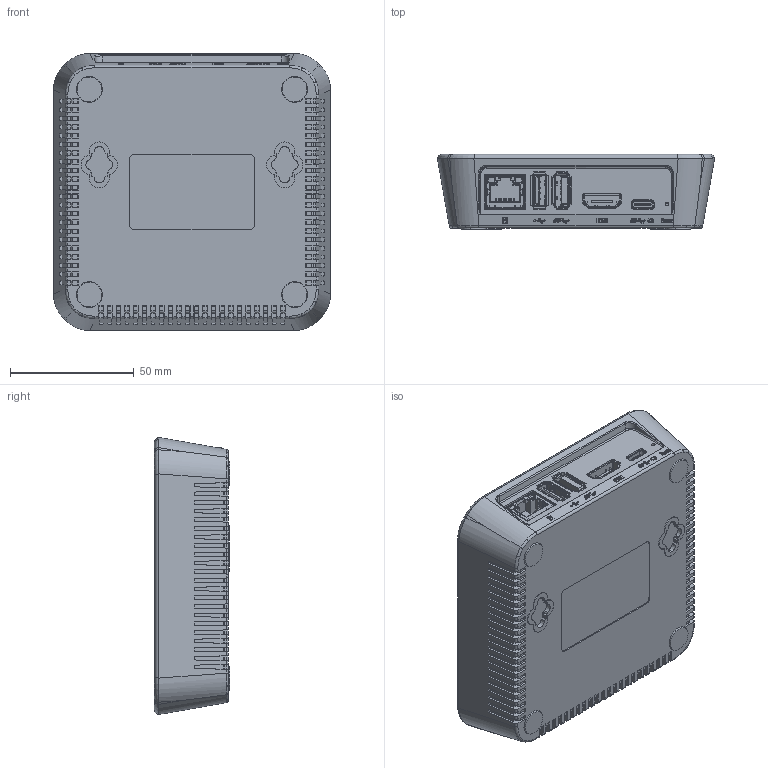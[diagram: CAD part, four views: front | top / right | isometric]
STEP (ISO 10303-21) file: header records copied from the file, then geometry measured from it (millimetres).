
FILE_DESCRIPTION (( 'STEP AP203' ), '1' );
FILE_NAME ('湮そ諷秶ん-TVBOX4.STEP', '2024-03-19T13:17:00', ( 'h''w''s''j''s' ), ( '' ), 'SwSTEP 2.0', 'SolidWorks 2020', '' );
FILE_SCHEMA (( 'CONFIG_CONTROL_DESIGN' ));
Products named in the file (1): 湮そ諷秶ん-TVBOX4
Bounding box: 112 x 30.39 x 112 mm (x, y, z)
Volume: 308763.4 mm3; surface area: 58639.4 mm2
Topology: 6 solids, 8 shells, 3358 faces, 9581 edges, 6301 vertices
Faces by surface type: plane 2398, cylinder 630, bspline 142, torus 92, cone 77, sphere 19
Entity records: 116814 total; most frequent: CARTESIAN_POINT 30216, ORIENTED_EDGE 19116, DIRECTION 16315, EDGE_CURVE 9558, VECTOR 7443, LINE 7443, VERTEX_POINT 6289, AXIS2_PLACEMENT_3D 4436
